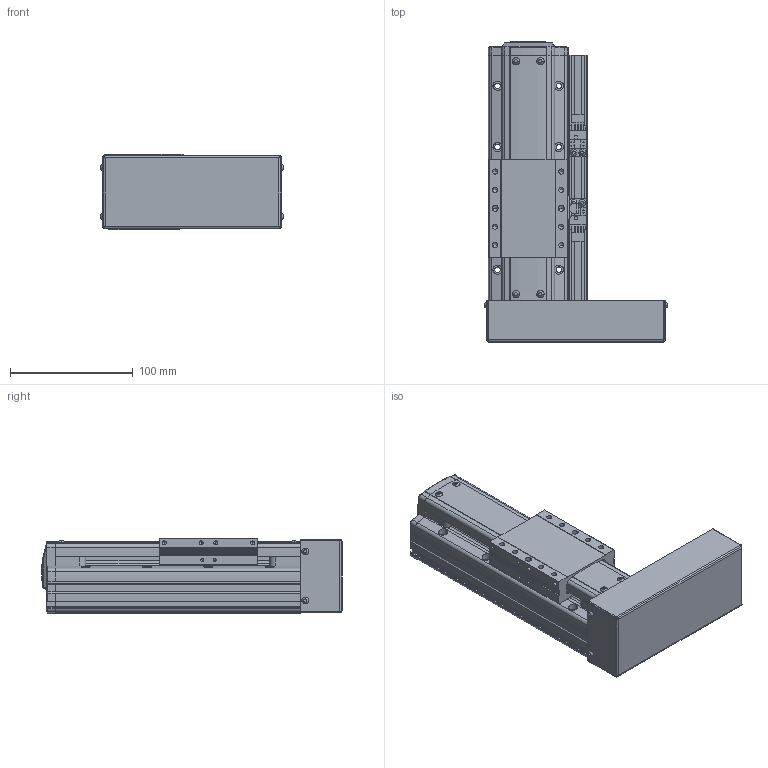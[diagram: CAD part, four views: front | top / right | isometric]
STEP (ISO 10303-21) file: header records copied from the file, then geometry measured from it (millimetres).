
FILE_DESCRIPTION(('STEP AP214'),'1');
FILE_NAME('Z:/Web/3D/PSA65/STP/PSA65-050 (3D)/PSA65ㅁㅁ-050PR+2SR.stp','2014-06-25T02:48:47',(' '),(' '),'Spatial InterOp 3D',' ',' ');
FILE_SCHEMA(('automotive_design'));
Length unit declared in the file: millimetre
Products named in the file (63): SLIDE; RRCV-PA060; 1; 2; 3; 4; 5; 6; 7; 8; 9; 10; 11; 12; 13; 14; 15; 16; 17; 18; 19; 20; 21; 22; 23; 24; 25; 26; 27; 28; 29; 30; 31; 스크루 : Round - M3.0 x 8.0; RN8 x 0.75; SHAFT-SAN65; BASE; 스크루 : Round - M3.0 x 6.0; BTCV-SAN65; BHCS M3 X 6L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
Bounding box: 149.13 x 244.8 x 62 mm (x, y, z)
Volume: 975480.2 mm3; surface area: 177166.7 mm2
Topology: 63 solids, 63 shells, 2041 faces, 5381 edges, 3467 vertices
Faces by surface type: plane 1292, cylinder 503, cone 165, sphere 46, bspline 19, torus 16
Entity records: 81022 total; most frequent: CARTESIAN_POINT 12591, DIRECTION 10778, ORIENTED_EDGE 10570, EDGE_CURVE 5285, LINE 3790, VECTOR 3790, AXIS2_PLACEMENT_3D 3494, VERTEX_POINT 3467
